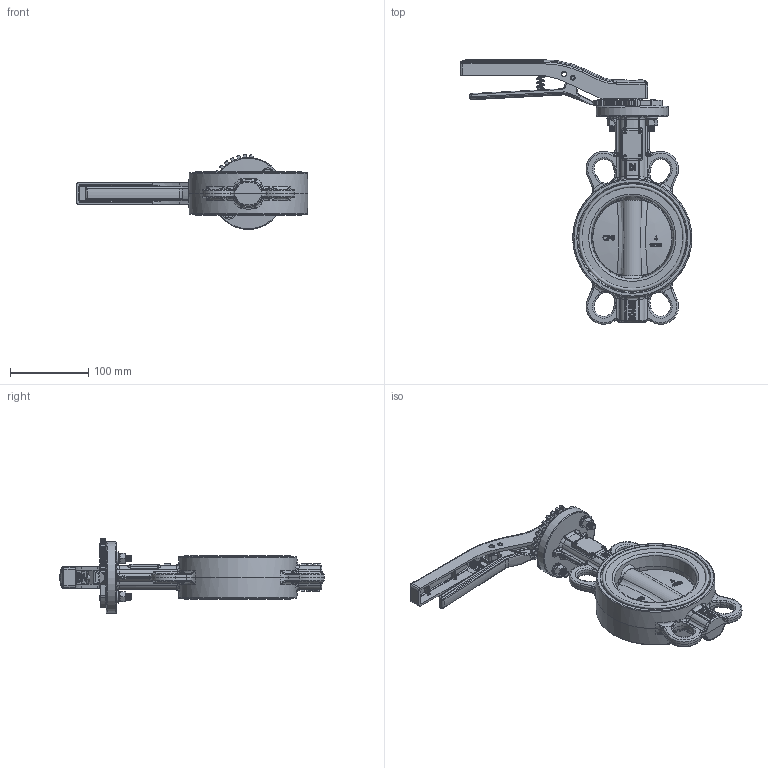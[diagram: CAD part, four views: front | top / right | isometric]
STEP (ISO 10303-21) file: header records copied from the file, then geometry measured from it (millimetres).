
FILE_DESCRIPTION(/* description */ (''),/* implementation_level */ '2;1');
FILE_NAME(/* name */ '',/* time_stamp */ '2024-06-19T15:32:47+07:00',/* author */ ('Eva'),/* organization */ (''),/* preprocessor_version */ 'ST-DEVELOPER v20',/* originating_system */ 'Autodesk Inventor 2025',/* authorisation */ '');
FILE_SCHEMA (('AUTOMOTIVE_DESIGN { 1 0 10303 214 3 1 1 }'));
Products named in the file (17): DN100装配; DN100·§Ме; КЦ±ъЧ°Ед(Д¬ИП-
_flexible1); ЦчКЦ±ъ-ВБЈЁёДЈ©; ё±КЦ°С; їЄїЪПъ; µЇ»Й; DN100іЭЕМ; ЖЅµжИ¦ Cј¶(ЖЅµжИ¦C
ј¶ 6); ДЪБщЅЗФІЦщН·ВЭ¶¤(
ДЪБщЅЗФІЦщН·ВЭ¶¤ 
M6X16-S); DN100 »Ёјь°еA; DN100Ин·§Чщ; DN100·§Цб; БщЅЗВЭДё Cј¶(
БщЅЗВЭДё Cј¶  M8-S); ±кЧјРНµЇ»ЙµжИ¦(±
кЧјРНµЇ»ЙµжИ¦ 8); ЖЅµжИ¦ Cј¶(ЖЅµжИ¦C
ј¶ 8); ДЪБщЅЗіБН·ВЭ¶¤(ДЪБщЅЗіБН·ВЭ¶¤ 
M8X40-S)
Assembly tree (20 placements, depth 3):
  DN100装配
    DN100·§Ме
    КЦ±ъЧ°Ед(Д¬ИП-
_flexible1)
      ЦчКЦ±ъ-ВБЈЁёДЈ©
      ё±КЦ°С
      їЄїЪПъ
      µЇ»Й
      DN100іЭЕМ
      ЖЅµжИ¦ Cј¶(ЖЅµжИ¦C
ј¶ 6)
      ДЪБщЅЗФІЦщН·ВЭ¶¤(
ДЪБщЅЗФІЦщН·ВЭ¶¤ 
M6X16-S)
    DN100 »Ёјь°еA
    DN100Ин·§Чщ
    DN100·§Цб
    ДЪБщЅЗіБН·ВЭ¶¤(ДЪБщЅЗіБН·ВЭ¶¤ 
M8X40-S)  x2
    ЖЅµжИ¦ Cј¶(ЖЅµжИ¦C
ј¶ 8)  x2
    ±кЧјРНµЇ»ЙµжИ¦(±
кЧјРНµЇ»ЙµжИ¦ 8)  x2
    БщЅЗВЭДё Cј¶(
БщЅЗВЭДё Cј¶  M8-S)  x2
Bounding box: 296.19 x 337.86 x 95.9 mm (x, y, z)
Volume: 1071424.3 mm3; surface area: 276430.4 mm2
Topology: 19 solids, 19 shells, 2565 faces, 6377 edges, 3856 vertices
Faces by surface type: bspline 715, plane 655, cylinder 582, cone 382, torus 183, sphere 48
Full cylindrical faces by diameter (mm): 5 x4, 6 x28, 6.5 x1, 6.6 x1, 6.647 x20, 7 x1, 7.083 x1, 8 x68, 9 x4, 10 x1, 12 x1, 15 x1, 15.24 x2, 15.77 x1, 16 x2, 16.1 x6, 16.4 x2, 18 x1, 18.6 x1, 20 x1, 22 x1, 23 x1, 25 x1, 44 x1, 92 x1, 114 x2, 137 x2
Entity records: 114741 total; most frequent: CARTESIAN_POINT 60801, ORIENTED_EDGE 11740, DIRECTION 10238, EDGE_CURVE 5870, AXIS2_PLACEMENT_3D 3983, VERTEX_POINT 3580, EDGE_LOOP 2510, FACE_OUTER_BOUND 2392
